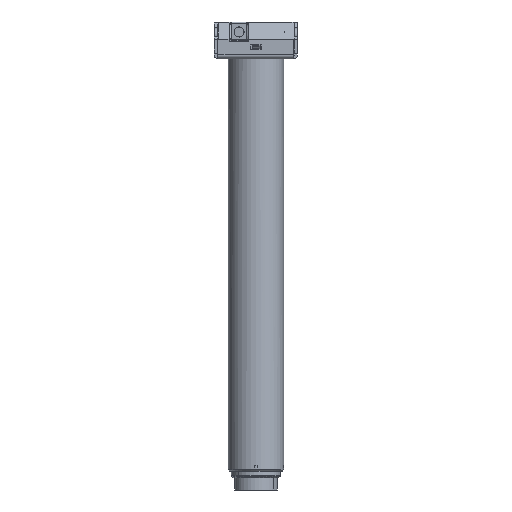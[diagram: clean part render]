
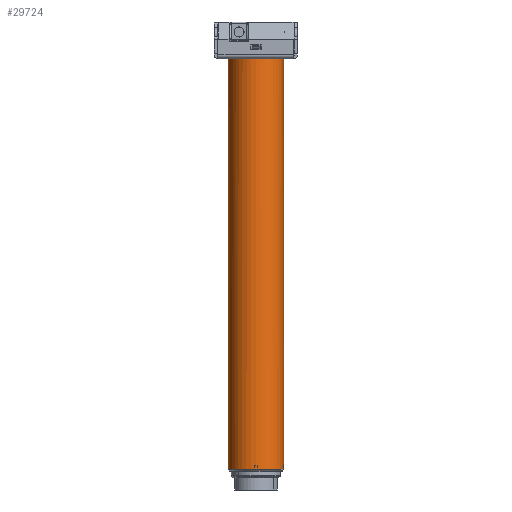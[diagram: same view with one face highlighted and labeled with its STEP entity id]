
A CAD part, front view. The second image highlights one B-rep face of the part: STEP entity #29724.
In plain terms, the highlighted cylindrical face has radius 35 mm (diameter 70 mm), a partial arc.
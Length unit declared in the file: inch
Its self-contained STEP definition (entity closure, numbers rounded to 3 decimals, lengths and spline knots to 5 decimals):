
#170 = VERTEX_POINT ( 'NONE', #10894 ) ;
#3378 = DIRECTION ( 'NONE',  ( 1., 0., 0. ) ) ;
#4121 = VERTEX_POINT ( 'NONE', #29591 ) ;
#5165 = DIRECTION ( 'NONE',  ( 0., 0., -1. ) ) ;
#7328 = LINE ( 'NONE', #72977, #23689 ) ;
#7519 = EDGE_LOOP ( 'NONE', ( #83862, #25533, #35205, #85561, #81389, #27363, #21755, #79715 ) ) ;
#8872 = VERTEX_POINT ( 'NONE', #77827 ) ;
#10426 = DIRECTION ( 'NONE',  ( 0., 0., 1. ) ) ;
#10894 = CARTESIAN_POINT ( 'NONE',  ( 81.11562, -1.37795, 72.0262 ) ) ;
#11049 = VERTEX_POINT ( 'NONE', #60722 ) ;
#11262 = CARTESIAN_POINT ( 'NONE',  ( 79.73766, -1.37795, 92.59707 ) ) ;
#11960 = CARTESIAN_POINT ( 'NONE',  ( 78.88054, -2.45689, 92.59707 ) ) ;
#13751 = AXIS2_PLACEMENT_3D ( 'NONE', #44079, #78779, #37729 ) ;
#16923 = DIRECTION ( 'NONE',  ( 0., 0., 1. ) ) ;
#19794 = VERTEX_POINT ( 'NONE', #34718 ) ;
#21335 = DIRECTION ( 'NONE',  ( 1., 0., 0. ) ) ;
#21755 = ORIENTED_EDGE ( 'NONE', *, *, #38536, .F. ) ;
#22619 = EDGE_CURVE ( 'NONE', #19794, #4121, #60290, .T. ) ;
#22733 = CARTESIAN_POINT ( 'NONE',  ( 79.73766, -1.37795, 72.0262 ) ) ;
#23689 = VECTOR ( 'NONE', #10426, 39.37008 ) ;
#24015 = VECTOR ( 'NONE', #56618, 39.37008 ) ;
#25371 = DIRECTION ( 'NONE',  ( 0., 0., -1. ) ) ;
#25468 = CARTESIAN_POINT ( 'NONE',  ( 80.58533, -2.46433, 92.43959 ) ) ;
#25533 = ORIENTED_EDGE ( 'NONE', *, *, #22619, .T. ) ;
#27363 = ORIENTED_EDGE ( 'NONE', *, *, #88556, .F. ) ;
#29591 = CARTESIAN_POINT ( 'NONE',  ( 78.35971, -1.37795, 72.0262 ) ) ;
#29724 = ADVANCED_FACE ( 'NONE', ( #42344 ), #42260, .T. ) ;
#30291 = VERTEX_POINT ( 'NONE', #69829 ) ;
#31481 = AXIS2_PLACEMENT_3D ( 'NONE', #63107, #48154, #21335 ) ;
#32012 = CIRCLE ( 'NONE', #66836, 1.37795 ) ;
#33505 = LINE ( 'NONE', #41195, #89070 ) ;
#34718 = CARTESIAN_POINT ( 'NONE',  ( 78.35971, -1.37795, 92.59707 ) ) ;
#35205 = ORIENTED_EDGE ( 'NONE', *, *, #61598, .T. ) ;
#37425 = AXIS2_PLACEMENT_3D ( 'NONE', #11262, #5165, #53685 ) ;
#37729 = DIRECTION ( 'NONE',  ( -1., 0., 0. ) ) ;
#38536 = EDGE_CURVE ( 'NONE', #30291, #61684, #75118, .T. ) ;
#40696 = EDGE_CURVE ( 'NONE', #49437, #19794, #70513, .T. ) ;
#40897 = DIRECTION ( 'NONE',  ( 0., 0., 1. ) ) ;
#40952 = EDGE_CURVE ( 'NONE', #11049, #8872, #69371, .T. ) ;
#41195 = CARTESIAN_POINT ( 'NONE',  ( 80.58533, -2.46433, 92.43959 ) ) ;
#42260 = CYLINDRICAL_SURFACE ( 'NONE', #37425, 1.37795 ) ;
#42344 = FACE_OUTER_BOUND ( 'NONE', #7519, .T. ) ;
#44079 = CARTESIAN_POINT ( 'NONE',  ( 79.73766, -1.37795, 92.43959 ) ) ;
#44988 = CARTESIAN_POINT ( 'NONE',  ( 81.11562, -1.37795, 92.59707 ) ) ;
#47644 = LINE ( 'NONE', #44988, #74946 ) ;
#48154 = DIRECTION ( 'NONE',  ( 0., 0., -1. ) ) ;
#49437 = VERTEX_POINT ( 'NONE', #11960 ) ;
#53401 = EDGE_CURVE ( 'NONE', #11049, #170, #47644, .T. ) ;
#53685 = DIRECTION ( 'NONE',  ( 1., 0., 0. ) ) ;
#56618 = DIRECTION ( 'NONE',  ( 0., 0., -1. ) ) ;
#58796 = AXIS2_PLACEMENT_3D ( 'NONE', #79925, #25371, #3378 ) ;
#60290 = LINE ( 'NONE', #63963, #24015 ) ;
#60722 = CARTESIAN_POINT ( 'NONE',  ( 81.11562, -1.37795, 92.59707 ) ) ;
#61598 = EDGE_CURVE ( 'NONE', #4121, #170, #32012, .T. ) ;
#61684 = VERTEX_POINT ( 'NONE', #25468 ) ;
#63107 = CARTESIAN_POINT ( 'NONE',  ( 79.73766, -1.37795, 92.59707 ) ) ;
#63963 = CARTESIAN_POINT ( 'NONE',  ( 78.35971, -1.37795, 92.59707 ) ) ;
#66836 = AXIS2_PLACEMENT_3D ( 'NONE', #22733, #16923, #72417 ) ;
#69371 = CIRCLE ( 'NONE', #31481, 1.37795 ) ;
#69829 = CARTESIAN_POINT ( 'NONE',  ( 78.88054, -2.45689, 92.43959 ) ) ;
#70513 = CIRCLE ( 'NONE', #58796, 1.37795 ) ;
#72417 = DIRECTION ( 'NONE',  ( -1., 0., 0. ) ) ;
#72977 = CARTESIAN_POINT ( 'NONE',  ( 78.88054, -2.45689, 92.43959 ) ) ;
#74946 = VECTOR ( 'NONE', #80293, 39.37008 ) ;
#75118 = CIRCLE ( 'NONE', #13751, 1.37795 ) ;
#77827 = CARTESIAN_POINT ( 'NONE',  ( 80.58533, -2.46433, 92.59707 ) ) ;
#78779 = DIRECTION ( 'NONE',  ( 0., 0., 1. ) ) ;
#79715 = ORIENTED_EDGE ( 'NONE', *, *, #86373, .T. ) ;
#79925 = CARTESIAN_POINT ( 'NONE',  ( 79.73766, -1.37795, 92.59707 ) ) ;
#80293 = DIRECTION ( 'NONE',  ( 0., 0., -1. ) ) ;
#81389 = ORIENTED_EDGE ( 'NONE', *, *, #40952, .T. ) ;
#83862 = ORIENTED_EDGE ( 'NONE', *, *, #40696, .T. ) ;
#85561 = ORIENTED_EDGE ( 'NONE', *, *, #53401, .F. ) ;
#86373 = EDGE_CURVE ( 'NONE', #30291, #49437, #7328, .T. ) ;
#88556 = EDGE_CURVE ( 'NONE', #61684, #8872, #33505, .T. ) ;
#89070 = VECTOR ( 'NONE', #40897, 39.37008 ) ;
